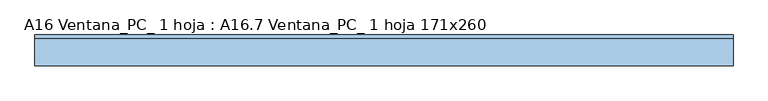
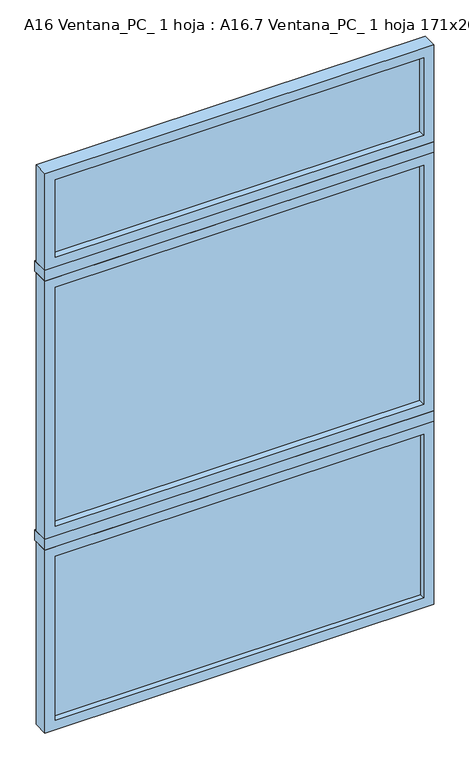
"""IFC4 building model written with IfcOpenShell, lengths in millimetres: window geometry, A16 Ventana_PC_ 1 hoja : A16.7 Ventana_PC_ 1 hoja 171x260."""

from ifc_helpers import new_model, si_unit, frame, origin, place, context, project, spatial, polyline, outline, extrude, source, transform, mapped, element, save


def a16_ventana_pc_1_hoja_a16_7_ventana_pc_1_hoja_171x260_4f929025(model_context):
    return source(origin(), model_context, "Body", "SweptSolid", [
        extrude(outline(polyline([(810.0, 37.5), (-810.0, 37.5), (-810.0, 53.5), (810.0, 53.5), (810.0, 37.5)])), frame((0.0, 0.0, 45.0), z_axis=(0.0, 0.0, 1.0), x_axis=(1.0, 0.0, 0.0)), (0.0, 0.0, 1.0), 760.0),
        extrude(outline(polyline([(810.0, 42.5), (-810.0, 42.5), (-810.0, 48.5), (810.0, 48.5), (810.0, 42.5)])), frame((0.0, 0.0, 2195.0), z_axis=(0.0, 0.0, 1.0), x_axis=(1.0, 0.0, 0.0)), (0.0, 0.0, 1.0), 360.0),
        extrude(outline(polyline([(810.0, 42.5), (-810.0, 42.5), (-810.0, 48.5), (810.0, 48.5), (810.0, 42.5)])), frame((0.0, 0.0, 945.0), z_axis=(0.0, 0.0, 1.0), x_axis=(1.0, 0.0, 0.0)), (0.0, 0.0, 1.0), 1110.0),
        extrude(outline(polyline([(850.0, -855.0), (0.0, -855.0), (0.0, 855.0), (850.0, 855.0), (850.0, -855.0)]), holes=[polyline([(805.0, -810.0), (805.0, 810.0), (45.0, 810.0), (45.0, -810.0), (805.0, -810.0)])]), frame((0.0, 12.5, 0.0), z_axis=(0.0, 1.0, 0.0), x_axis=(0.0, 0.0, 1.0)), (0.0, 0.0, 1.0), 66.0),
        extrude(outline(polyline([(2600.0, -855.0), (2150.0, -855.0), (2150.0, 855.0), (2600.0, 855.0), (2600.0, -855.0)]), holes=[polyline([(2555.0, -810.0), (2555.0, 810.0), (2195.0, 810.0), (2195.0, -810.0), (2555.0, -810.0)])]), frame((0.0, 12.5, 0.0), z_axis=(0.0, 1.0, 0.0), x_axis=(0.0, 0.0, 1.0)), (0.0, 0.0, 1.0), 66.0),
        extrude(outline(polyline([(2100.0, -855.0), (900.0, -855.0), (900.0, 855.0), (2100.0, 855.0), (2100.0, -855.0)]), holes=[polyline([(2055.0, -810.0), (2055.0, 810.0), (945.0, 810.0), (945.0, -810.0), (2055.0, -810.0)])]), frame((0.0, 12.5, 0.0), z_axis=(0.0, 1.0, 0.0), x_axis=(0.0, 0.0, 1.0)), (0.0, 0.0, 1.0), 66.0),
        extrude(outline(polyline([(855.0, 12.5), (-855.0, 12.5), (-855.0, 87.5), (855.0, 87.5), (855.0, 12.5)])), frame((0.0, 0.0, 2100.0), z_axis=(0.0, 0.0, 1.0), x_axis=(1.0, 0.0, 0.0)), (0.0, 0.0, 1.0), 50.0),
        extrude(outline(polyline([(855.0, 12.5), (-855.0, 12.5), (-855.0, 87.5), (855.0, 87.5), (855.0, 12.5)])), frame((0.0, 0.0, 850.0), z_axis=(0.0, 0.0, 1.0), x_axis=(1.0, 0.0, 0.0)), (0.0, 0.0, 1.0), 50.0),
    ])


if __name__ == "__main__":
    model = new_model("IFC4")
    model_context = context("Model", 3, world=origin())
    ifc_project = project(units=[si_unit("LENGTHUNIT", "METRE", prefix="MILLI")], contexts=[model_context])
    site = spatial("IfcSite", under=ifc_project)
    building = spatial("IfcBuilding", under=site)
    placement = place(None, origin())
    a16_ventana_pc_1_hoja_a16_7_ventana_pc_1_hoja_171x260_shape = a16_ventana_pc_1_hoja_a16_7_ventana_pc_1_hoja_171x260_4f929025(model_context)
    element("IfcWindow", 1, ObjectType="A16 Ventana_PC_ 1 hoja : A16.7 Ventana_PC_ 1 hoja 171x260", at=placement, inside=building, context=model_context, shape_type="MappedRepresentation", body=[
        mapped(a16_ventana_pc_1_hoja_a16_7_ventana_pc_1_hoja_171x260_shape, transform((0.0, 0.0, 0.0), x_axis=(1.0, 0.0, 0.0), y_axis=(0.0, 1.0, 0.0), z_axis=(0.0, 0.0, 1.0))),
    ])
    save(model, "model.ifc")
